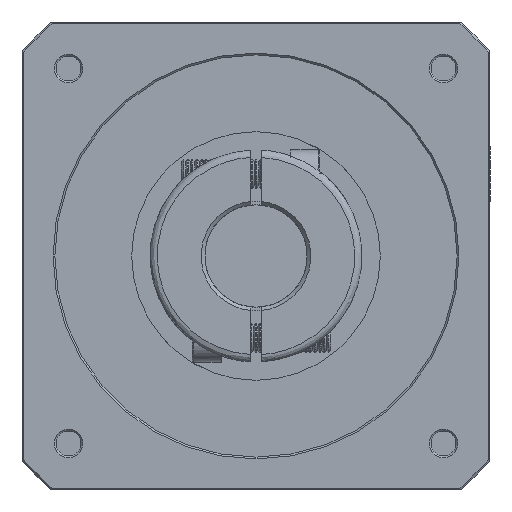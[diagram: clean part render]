
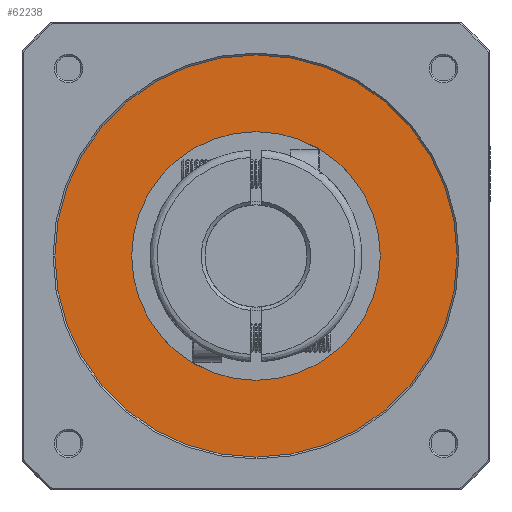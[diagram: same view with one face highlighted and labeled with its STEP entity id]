
A CAD part, front view. The second image highlights one B-rep face of the part: STEP entity #62238.
In plain terms, the highlighted planar face has unit normal (0, 1, 0).
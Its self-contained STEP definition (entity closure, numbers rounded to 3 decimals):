
#1200 = FACE_BOUND ( 'NONE', #76776, .T. ) ;
#1750 = CARTESIAN_POINT ( 'NONE',  ( -55.66, -140.611, -55.66 ) ) ;
#4370 = CARTESIAN_POINT ( 'NONE',  ( 0., -140.611, 0. ) ) ;
#7751 = VERTEX_POINT ( 'NONE', #13873 ) ;
#8003 = DIRECTION ( 'NONE',  ( 0., 1., 0. ) ) ;
#8284 = PLANE ( 'NONE',  #29758 ) ;
#8562 = DIRECTION ( 'NONE',  ( 1., 0., 0. ) ) ;
#10847 = CARTESIAN_POINT ( 'NONE',  ( 0., -140.611, 0. ) ) ;
#11218 = DIRECTION ( 'NONE',  ( 0., 0., 1. ) ) ;
#13341 = AXIS2_PLACEMENT_3D ( 'NONE', #64172, #23469, #71060 ) ;
#13873 = CARTESIAN_POINT ( 'NONE',  ( 0., -140.611, -34. ) ) ;
#15955 = CARTESIAN_POINT ( 'NONE',  ( 0., -140.611, 34. ) ) ;
#17720 = DIRECTION ( 'NONE',  ( 0., 0., 1. ) ) ;
#18459 = VERTEX_POINT ( 'NONE', #15955 ) ;
#19312 = EDGE_CURVE ( 'NONE', #18459, #7751, #30762, .T. ) ;
#20150 = CIRCLE ( 'NONE', #84505, 55. ) ;
#23469 = DIRECTION ( 'NONE',  ( 0., 1., 0. ) ) ;
#24937 = ORIENTED_EDGE ( 'NONE', *, *, #84149, .T. ) ;
#29758 = AXIS2_PLACEMENT_3D ( 'NONE', #1750, #49283, #8562 ) ;
#30762 = CIRCLE ( 'NONE', #76229, 34. ) ;
#35141 = ORIENTED_EDGE ( 'NONE', *, *, #19312, .T. ) ;
#36117 = AXIS2_PLACEMENT_3D ( 'NONE', #10847, #58382, #17720 ) ;
#38135 = EDGE_LOOP ( 'NONE', ( #81299, #57788 ) ) ;
#48109 = EDGE_CURVE ( 'NONE', #58047, #81429, #70326, .T. ) ;
#48687 = CARTESIAN_POINT ( 'NONE',  ( 0., -140.611, 0. ) ) ;
#49283 = DIRECTION ( 'NONE',  ( 0., -1., 0. ) ) ;
#51923 = DIRECTION ( 'NONE',  ( 0., -1., 0. ) ) ;
#55551 = DIRECTION ( 'NONE',  ( 0., 0., -1. ) ) ;
#57788 = ORIENTED_EDGE ( 'NONE', *, *, #71861, .T. ) ;
#58047 = VERTEX_POINT ( 'NONE', #75180 ) ;
#58382 = DIRECTION ( 'NONE',  ( 0., -1., 0. ) ) ;
#62238 = ADVANCED_FACE ( 'NONE', ( #1200, #87389 ), #8284, .F. ) ;
#64172 = CARTESIAN_POINT ( 'NONE',  ( 0., -140.611, 0. ) ) ;
#70326 = CIRCLE ( 'NONE', #13341, 55. ) ;
#71060 = DIRECTION ( 'NONE',  ( 0., 0., -1. ) ) ;
#71714 = CIRCLE ( 'NONE', #36117, 34. ) ;
#71861 = EDGE_CURVE ( 'NONE', #81429, #58047, #20150, .T. ) ;
#75180 = CARTESIAN_POINT ( 'NONE',  ( 0., -140.611, -55. ) ) ;
#76229 = AXIS2_PLACEMENT_3D ( 'NONE', #4370, #51923, #11218 ) ;
#76776 = EDGE_LOOP ( 'NONE', ( #35141, #24937 ) ) ;
#81299 = ORIENTED_EDGE ( 'NONE', *, *, #48109, .T. ) ;
#81429 = VERTEX_POINT ( 'NONE', #87092 ) ;
#84149 = EDGE_CURVE ( 'NONE', #7751, #18459, #71714, .T. ) ;
#84505 = AXIS2_PLACEMENT_3D ( 'NONE', #48687, #8003, #55551 ) ;
#87092 = CARTESIAN_POINT ( 'NONE',  ( 0., -140.611, 55. ) ) ;
#87389 = FACE_OUTER_BOUND ( 'NONE', #38135, .T. ) ;
